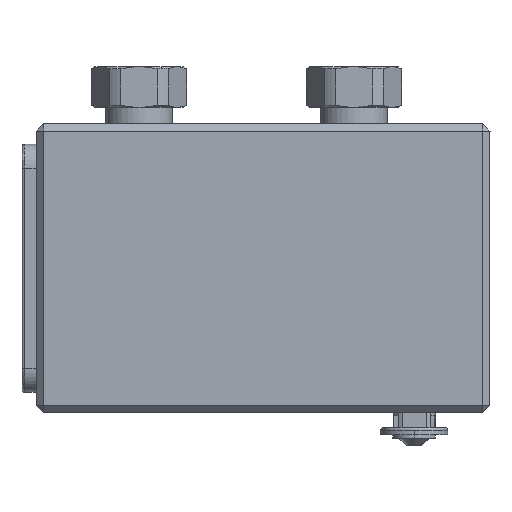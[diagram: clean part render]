
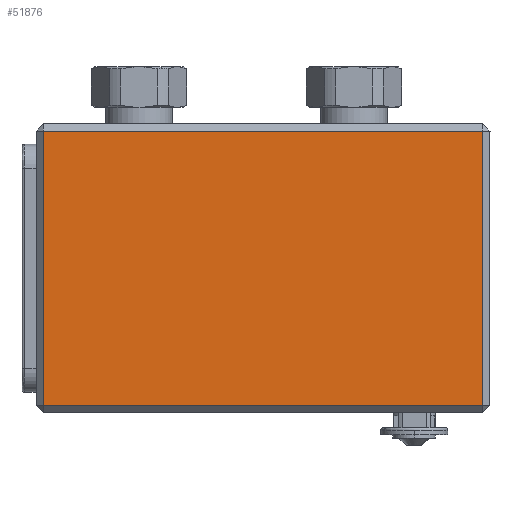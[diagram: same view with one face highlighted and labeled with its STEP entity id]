
A CAD part, front view. The second image highlights one B-rep face of the part: STEP entity #51876.
In plain terms, the highlighted planar face has unit normal (0, -1, 0) as drawn and (-1, 0, 0) by its records, which use the part's own axes.
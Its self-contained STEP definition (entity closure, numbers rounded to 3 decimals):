
#107 = EDGE_CURVE ( 'NONE', #17914, #204, #47017, .T. ) ;
#204 = VERTEX_POINT ( 'NONE', #7913 ) ;
#919 = CARTESIAN_POINT ( 'NONE',  ( -117.5, 107.9, -99. ) ) ;
#1414 = LINE ( 'NONE', #5023, #44394 ) ;
#5023 = CARTESIAN_POINT ( 'NONE',  ( -117.5, -7.1, 0. ) ) ;
#5256 = DIRECTION ( 'NONE',  ( 0., -1., 0. ) ) ;
#5554 = DIRECTION ( 'NONE',  ( 0., 0., -1. ) ) ;
#7913 = CARTESIAN_POINT ( 'NONE',  ( -117.5, -7.1, -99. ) ) ;
#8967 = EDGE_LOOP ( 'NONE', ( #55569, #16674, #40079, #38720 ) ) ;
#9445 = CARTESIAN_POINT ( 'NONE',  ( -117.5, 107.9, 0. ) ) ;
#11528 = CARTESIAN_POINT ( 'NONE',  ( -117.5, -10.1, 0. ) ) ;
#11766 = CARTESIAN_POINT ( 'NONE',  ( -117.5, -10.1, 85. ) ) ;
#14802 = CARTESIAN_POINT ( 'NONE',  ( -117.5, -10.1, -99. ) ) ;
#15275 = VECTOR ( 'NONE', #5554, 1000. ) ;
#15739 = DIRECTION ( 'NONE',  ( -1., 0., 0. ) ) ;
#15821 = EDGE_CURVE ( 'NONE', #37016, #41764, #43708, .T. ) ;
#16674 = ORIENTED_EDGE ( 'NONE', *, *, #44173, .T. ) ;
#17914 = VERTEX_POINT ( 'NONE', #919 ) ;
#19656 = DIRECTION ( 'NONE',  ( 0., 0., 1. ) ) ;
#19871 = DIRECTION ( 'NONE',  ( 0., 1., 0. ) ) ;
#24069 = LINE ( 'NONE', #9445, #15275 ) ;
#24079 = VECTOR ( 'NONE', #19871, 1000. ) ;
#25490 = EDGE_CURVE ( 'NONE', #41764, #17914, #24069, .T. ) ;
#29488 = PLANE ( 'NONE',  #53997 ) ;
#37016 = VERTEX_POINT ( 'NONE', #42516 ) ;
#38412 = FACE_OUTER_BOUND ( 'NONE', #8967, .T. ) ;
#38720 = ORIENTED_EDGE ( 'NONE', *, *, #25490, .T. ) ;
#40079 = ORIENTED_EDGE ( 'NONE', *, *, #15821, .T. ) ;
#40506 = VECTOR ( 'NONE', #5256, 1000. ) ;
#41764 = VERTEX_POINT ( 'NONE', #49894 ) ;
#42516 = CARTESIAN_POINT ( 'NONE',  ( -117.5, -7.1, 85. ) ) ;
#43708 = LINE ( 'NONE', #11766, #24079 ) ;
#44173 = EDGE_CURVE ( 'NONE', #204, #37016, #1414, .T. ) ;
#44394 = VECTOR ( 'NONE', #19656, 1000. ) ;
#46763 = DIRECTION ( 'NONE',  ( 0., 0., 1. ) ) ;
#47017 = LINE ( 'NONE', #14802, #40506 ) ;
#49894 = CARTESIAN_POINT ( 'NONE',  ( -117.5, 107.9, 85. ) ) ;
#51876 = ADVANCED_FACE ( 'NONE', ( #38412 ), #29488, .T. ) ;
#53997 = AXIS2_PLACEMENT_3D ( 'NONE', #11528, #15739, #46763 ) ;
#55569 = ORIENTED_EDGE ( 'NONE', *, *, #107, .T. ) ;
